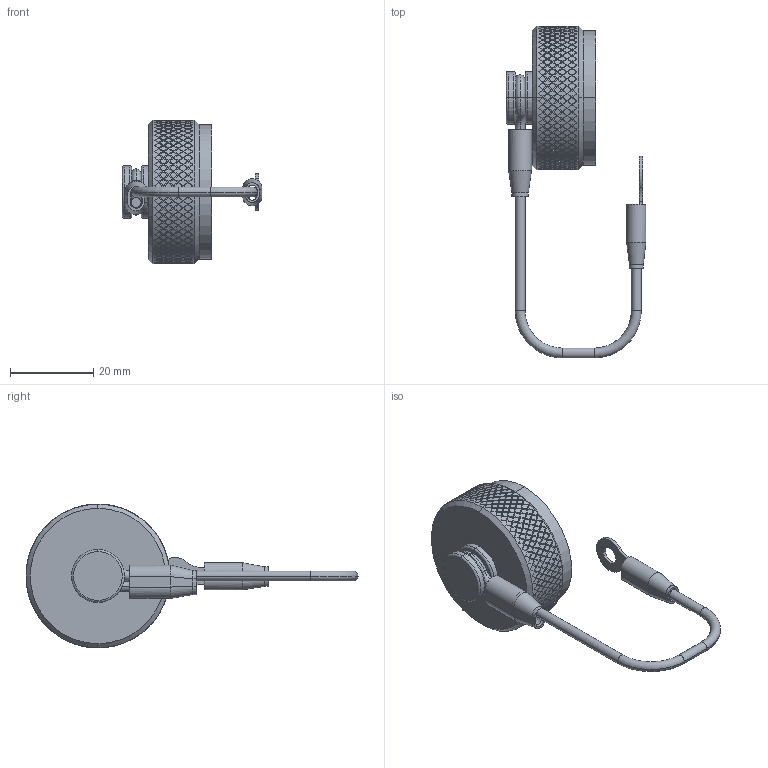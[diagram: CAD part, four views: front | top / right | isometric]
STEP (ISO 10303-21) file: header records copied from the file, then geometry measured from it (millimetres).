
FILE_DESCRIPTION (( 'STEP AP214' ), '1' );
FILE_NAME ('Q38DC-RFX-17-R1.STEP', '2026-04-22T20:06:31', ( '' ), ( '' ), 'SwSTEP 2.0', 'SolidWorks 2024', '' );
FILE_SCHEMA (( 'AUTOMOTIVE_DESIGN' ));
Length unit declared in the file: inch
Products named in the file (9): Q38-XX29-P_17R; HEAT SHRINK_HS-125-625S; LN-06-07-13_Q38DC-RFX-17 (Assembled); SW-347; HEAT SHRINK_HS-250X625_SW-348; Lanyard Assembly Q38_Q38DC-RFX-17; Q38DC-RFX-17-R1; SW-348; Q38-XX48-X_Q38-1748-X
Assembly tree (8 placements, depth 3):
  Q38DC-RFX-17-R1
    Q38-XX48-X_Q38-1748-X
    Lanyard Assembly Q38_Q38DC-RFX-17
      LN-06-07-13_Q38DC-RFX-17 (Assembled)
      SW-348
      HEAT SHRINK_HS-250X625_SW-348
      SW-347
      HEAT SHRINK_HS-125-625S
    Q38-XX29-P_17R
Bounding box: 33.64 x 79.82 x 34.57 mm (x, y, z)
Volume: 7226.4 mm3; surface area: 9167 mm2
Topology: 7 solids, 7 shells, 2630 faces, 6498 edges, 4308 vertices
Faces by surface type: plane 2021, cylinder 569, torus 20, bspline 14, cone 6
Entity records: 78153 total; most frequent: CARTESIAN_POINT 27198, ORIENTED_EDGE 12996, DIRECTION 7918, EDGE_CURVE 6498, VERTEX_POINT 4308, EDGE_LOOP 3066, AXIS2_PLACEMENT_3D 2905, ADVANCED_FACE 2630
